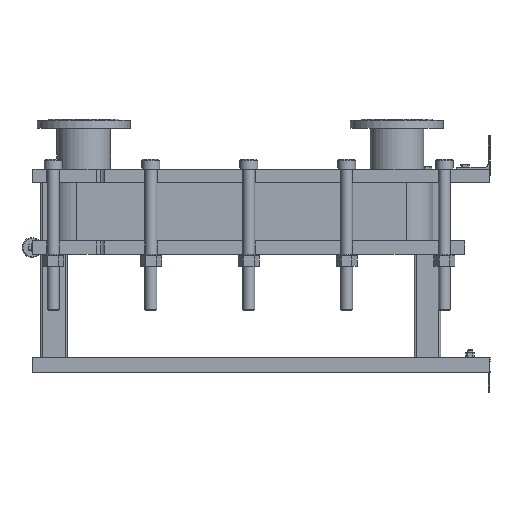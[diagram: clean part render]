
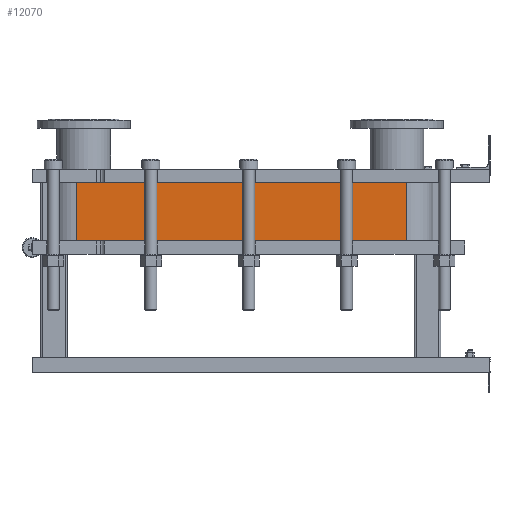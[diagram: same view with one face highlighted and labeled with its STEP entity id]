
A CAD part, left-side view. The second image highlights one B-rep face of the part: STEP entity #12070.
In plain terms, the highlighted planar face has unit normal (-1, 0, 0).
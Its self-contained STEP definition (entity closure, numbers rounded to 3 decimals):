
#1064=LINE('',#21140,#2164);
#1065=LINE('',#21144,#2165);
#1066=LINE('',#21146,#2166);
#1067=LINE('',#21147,#2167);
#2164=VECTOR('',#15790,10.);
#2165=VECTOR('',#15795,10.);
#2166=VECTOR('',#15796,10.);
#2167=VECTOR('',#15797,10.);
#3304=FACE_OUTER_BOUND('',#4091,.T.);
#4091=EDGE_LOOP('',(#9793,#9794,#9795,#9796));
#5677=VERTEX_POINT('',#21137);
#5678=VERTEX_POINT('',#21139);
#5679=VERTEX_POINT('',#21143);
#5680=VERTEX_POINT('',#21145);
#7118=EDGE_CURVE('',#5678,#5677,#1064,.T.);
#7120=EDGE_CURVE('',#5677,#5679,#1065,.T.);
#7121=EDGE_CURVE('',#5680,#5679,#1066,.T.);
#7122=EDGE_CURVE('',#5680,#5678,#1067,.T.);
#9793=ORIENTED_EDGE('',*,*,#7120,.T.);
#9794=ORIENTED_EDGE('',*,*,#7121,.F.);
#9795=ORIENTED_EDGE('',*,*,#7122,.T.);
#9796=ORIENTED_EDGE('',*,*,#7118,.T.);
#11441=PLANE('',#13191);
#12070=ADVANCED_FACE('',(#3304),#11441,.T.);
#13191=AXIS2_PLACEMENT_3D('',#21142,#15793,#15794);
#15790=DIRECTION('',(0.,0.,-1.));
#15793=DIRECTION('center_axis',(-1.,0.,0.));
#15794=DIRECTION('ref_axis',(0.,1.,0.));
#15795=DIRECTION('',(0.,-1.,0.));
#15796=DIRECTION('',(0.,0.,-1.));
#15797=DIRECTION('',(0.,1.,0.));
#21137=CARTESIAN_POINT('',(-248.152,1243.818,-175.95));
#21139=CARTESIAN_POINT('',(-248.152,1243.818,0.));
#21140=CARTESIAN_POINT('',(-248.152,1243.818,0.));
#21142=CARTESIAN_POINT('Origin',(-248.152,251.818,0.));
#21143=CARTESIAN_POINT('',(-248.152,251.818,-175.95));
#21144=CARTESIAN_POINT('',(-248.152,499.818,-175.95));
#21145=CARTESIAN_POINT('',(-248.152,251.818,0.));
#21146=CARTESIAN_POINT('',(-248.152,251.818,0.));
#21147=CARTESIAN_POINT('',(-248.152,251.818,0.));
